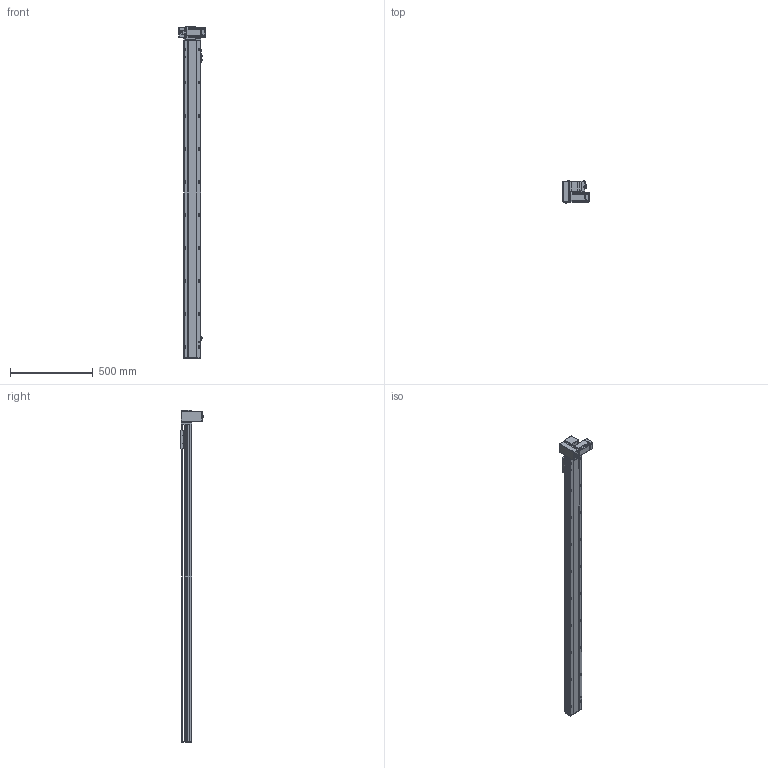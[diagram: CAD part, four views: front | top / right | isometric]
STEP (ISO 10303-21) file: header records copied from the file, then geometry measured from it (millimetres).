
FILE_DESCRIPTION (( 'STEP AP214' ), '1' );
FILE_NAME ('TPT10-L32-1700-LD-T10-C4.STEP', '2023-03-02T10:35:56', ( '' ), ( '' ), 'SwSTEP 2.0', 'SolidWorks 2020', '' );
FILE_SCHEMA (( 'AUTOMOTIVE_DESIGN' ));
Length unit declared in the file: millimetre
Products named in the file (12): 葩璃 pm-t65-672^TPT10-L32-LD-T10-C4; 葩璃 TPT10-L-002 奻裔MZ-102A-02^TPT10-L32-LD-T10-C4; hexagon head bolts-full thread gb_GB_FASTENER_BOLT_STBAB A M5X16-N; 葩璃 TPT10-L-009 萇儂啣^TPT10-L32-LD-T10-C4_100W; 葩璃 侂狟400W^TPT10-L32-LD-T10-C4; hexagon socket head cap screws gb_GB_FASTENER_SCREWS_HSHCS M3X6-N; hex nuts, style 1-grades ab gb_GB_FASTENER_NUT_SNAB1 M3-N; 葩璃 TPT10-L-001 菁釱MZ-102A-01^TPT10-L32-LD-T10-C4; 葩璃 侂狟100W^TPT10-L32-LD-T10-C4; 葩璃 TPT10-L-007 々湍釱MZ-169x88^TPT10-L32-LD-T10-C4_L; 葩璃 TPT10-L-005 賑釱MZ-102A-03^TPT10-L32-LD-T10-C4; TPT10-L32-1700-LD-T10-C4
Assembly tree (23 placements, depth 2):
  TPT10-L32-1700-LD-T10-C4
    葩璃 TPT10-L-001 菁釱MZ-102A-01^TPT10-L32-LD-T10-C4
    葩璃 TPT10-L-002 奻裔MZ-102A-02^TPT10-L32-LD-T10-C4
    葩璃 TPT10-L-007 々湍釱MZ-169x88^TPT10-L32-LD-T10-C4_L
    葩璃 TPT10-L-005 賑釱MZ-102A-03^TPT10-L32-LD-T10-C4
    葩璃 TPT10-L-009 萇儂啣^TPT10-L32-LD-T10-C4_100W
    葩璃 pm-t65-672^TPT10-L32-LD-T10-C4  x3
    葩璃 侂狟100W^TPT10-L32-LD-T10-C4
    葩璃 侂狟400W^TPT10-L32-LD-T10-C4
    hexagon head bolts-full thread gb_GB_FASTENER_BOLT_STBAB A M5X16-N
    hexagon socket head cap screws gb_GB_FASTENER_SCREWS_HSHCS M3X6-N  x6
    hex nuts, style 1-grades ab gb_GB_FASTENER_NUT_SNAB1 M3-N  x6
Bounding box: 160.5 x 134.65 x 2010 mm (x, y, z)
Volume: 6533238.2 mm3; surface area: 1269112.3 mm2
Topology: 31 solids, 31 shells, 2005 faces, 5267 edges, 3361 vertices
Faces by surface type: plane 1074, cylinder 671, cone 214, bspline 34, torus 12
Entity records: 51605 total; most frequent: CARTESIAN_POINT 10224, DIRECTION 8418, ORIENTED_EDGE 8118, EDGE_CURVE 4059, AXIS2_PLACEMENT_3D 2980, VERTEX_POINT 2652, LINE 2458, VECTOR 2458
